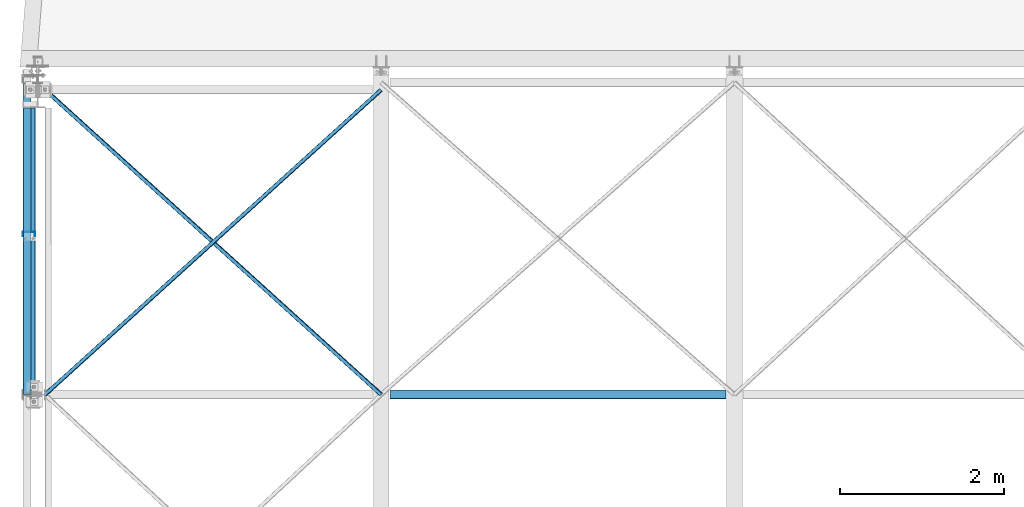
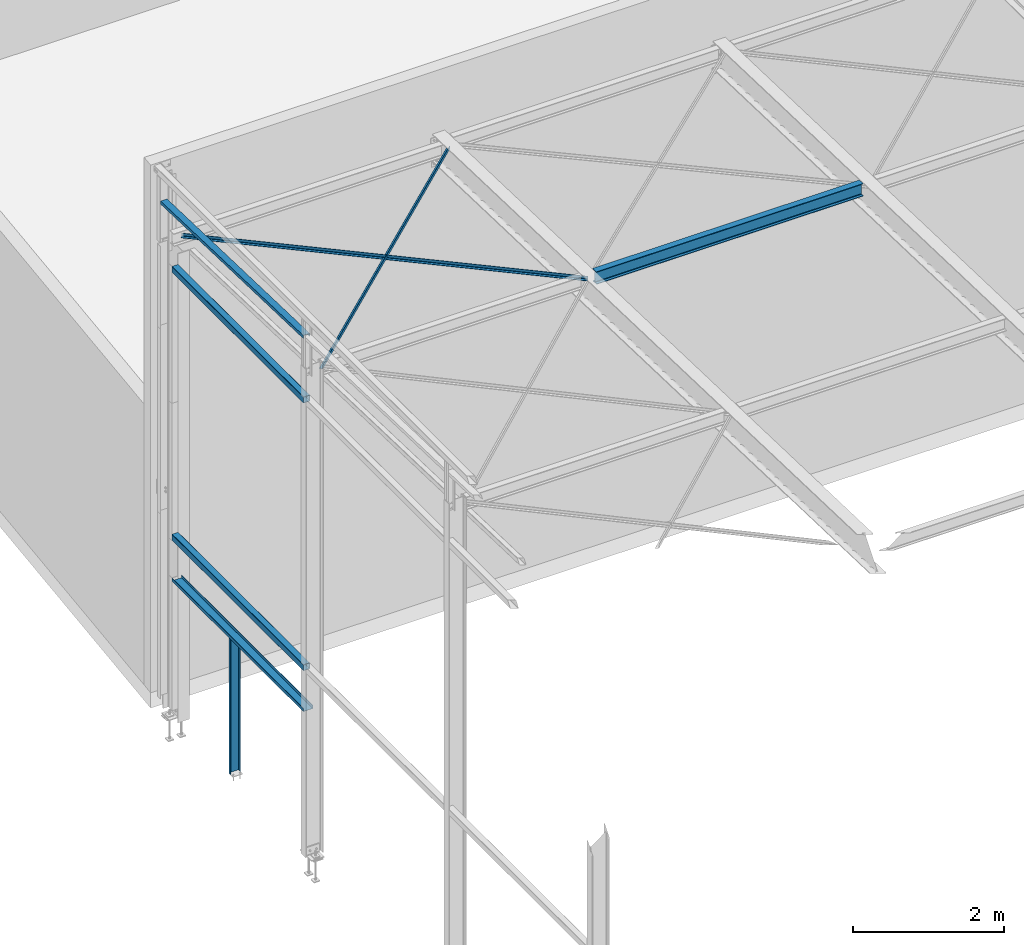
# One storey, part 26 of 123: 8 beams, 8 elements without a shape of their own.
"""IFC2X3 building model written with IfcOpenShell, lengths in millimetres."""

from ifc_helpers import new_model, si_unit, frame, origin_with_axes, origin_2d_with_axis, place, context, subcontext, project, spatial, hollow_rectangle, i_section, l_section, u_section, extrude, material, type_object, element, aggregate, save


model = new_model("IFC2X3")

# Units and contexts
model_context = context("Model", 3, precision=1e-05, world=origin_with_axes())
body_context = subcontext(model_context, "Body", "Model", "MODEL_VIEW")
ifc_project = project(units=[si_unit("LENGTHUNIT", "METRE", prefix="MILLI"), si_unit("AREAUNIT", "SQUARE_METRE"), si_unit("VOLUMEUNIT", "CUBIC_METRE"), si_unit("MASSUNIT", "GRAM", prefix="KILO"), si_unit("TIMEUNIT", "SECOND"), si_unit("PLANEANGLEUNIT", "RADIAN"), si_unit("SOLIDANGLEUNIT", "STERADIAN"), si_unit("THERMODYNAMICTEMPERATUREUNIT", "DEGREE_CELSIUS"), si_unit("LUMINOUSINTENSITYUNIT", "LUMEN")], contexts=[model_context])

# Site, building, storey
site_placement = place(None, origin_with_axes())
site = spatial("IfcSite", under=ifc_project, at=site_placement, Name="Undefined", CompositionType="ELEMENT")
building_placement = place(site_placement, origin_with_axes())
building = spatial("IfcBuilding", under=site, at=building_placement, Name="Undefined", CompositionType="ELEMENT")
storey_placement = place(building_placement, origin_with_axes())
storey = spatial("IfcBuildingStorey", under=building, at=storey_placement, Name="Undefined", CompositionType="ELEMENT", Elevation=0.0)

# Assembly, beam
assembly_1_placement = place(storey_placement, origin_with_axes())
assembly_1 = element("IfcElementAssembly", 1, at=assembly_1_placement, inside=storey, Name="Steel Assembly", AssemblyPlace="NOTDEFINED", PredefinedType="RIGID_FRAME")
ifc_material_1 = material(Name="STEEL/S235-E24")
beam_type_1 = type_object("IfcBeamType", Name="UPF-100*50*4", PredefinedType="NOTDEFINED")
beam_1_placement = place(assembly_1_placement, frame((-129.999999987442, 11400.0, 8171.98873515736), z_axis=(1.0, 0.0, 0.0), x_axis=(0.0, 0.999505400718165, -0.0314476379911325)))
beam_1 = element("IfcBeam", 2, at=beam_1_placement, type_object=beam_type_1, material=ifc_material_1, Name="LISSE CONTREBARDAGE", ObjectType="UPF-100*50*4", context=body_context, shape_type="SweptSolid", body=[
    extrude(u_section(Depth=100.0, FlangeWidth=50.0, WebThickness=4.0, FlangeThickness=4.0, at=origin_2d_with_axis()), frame((3791.86724433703, 0.0, 0.0), z_axis=(-1.0, 0.0, 0.0), x_axis=(0.0, -1.0, 0.0)), (0.0, 0.0, 1.0), 3791.9),
])
aggregate(assembly_1, [beam_1])

assembly_2_placement = place(storey_placement, origin_with_axes())
assembly_2 = element("IfcElementAssembly", 3, at=assembly_2_placement, inside=storey, Name="Steel Assembly", AssemblyPlace="NOTDEFINED", PredefinedType="RIGID_FRAME")
beam_type_2 = type_object("IfcBeamType", Name="TUBE-C-100*100*4", PredefinedType="NOTDEFINED")
beam_2_placement = place(assembly_2_placement, frame((-129.999996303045, 14890.0000011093, 7149.99999263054), z_axis=(0.0, 0.0, -1.0), x_axis=(0.0, -1.0, 0.0)))
beam_2 = element("IfcBeam", 4, at=beam_2_placement, type_object=beam_type_2, material=ifc_material_1, Name="LISSE CHASSIS", ObjectType="TUBE-C-100*100*4", context=body_context, shape_type="SweptSolid", body=[
    extrude(hollow_rectangle(XDim=100.0, YDim=100.0, WallThickness=4.0, InnerFilletRadius=4.0, OuterFilletRadius=8.0, at=origin_2d_with_axis()), frame((3490.00000200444, 0.0, 0.0), z_axis=(-1.0, 0.0, 0.0), x_axis=(0.0, -1.0, 0.0)), (0.0, 0.0, 1.0), 3490.0),
])
aggregate(assembly_2, [beam_2])

assembly_3_placement = place(storey_placement, origin_with_axes())
assembly_3 = element("IfcElementAssembly", 5, at=assembly_3_placement, inside=storey, Name="Steel Assembly", AssemblyPlace="NOTDEFINED", PredefinedType="RIGID_FRAME")
beam_3_placement = place(assembly_3_placement, frame((-129.99999629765, 14889.9999966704, 2810.00000054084), z_axis=(0.0, 0.0, 1.0), x_axis=(0.0, -1.0, 0.0)))
beam_3 = element("IfcBeam", 6, at=beam_3_placement, type_object=beam_type_2, material=ifc_material_1, Name="LISSE CHASSIS", ObjectType="TUBE-C-100*100*4", context=body_context, shape_type="SweptSolid", body=[
    extrude(hollow_rectangle(XDim=100.0, YDim=100.0, WallThickness=4.0, InnerFilletRadius=4.0, OuterFilletRadius=8.0, at=origin_2d_with_axis()), frame((3490.00000200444, 0.0, 0.0), z_axis=(-1.0, 0.0, 0.0), x_axis=(0.0, -1.0, 0.0)), (0.0, 0.0, 1.0), 3490.0),
])
aggregate(assembly_3, [beam_3])

assembly_4_placement = place(storey_placement, origin_with_axes())
assembly_4 = element("IfcElementAssembly", 7, at=assembly_4_placement, inside=storey, Name="Steel Assembly", AssemblyPlace="NOTDEFINED", PredefinedType="RIGID_FRAME")
beam_type_3 = type_object("IfcBeamType", Name="UPF-150*50*5", PredefinedType="NOTDEFINED")
beam_4_placement = place(assembly_4_placement, frame((-105.00001139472, 13355.0066110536, 2100.00000095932), z_axis=(1.0, 0.0, 0.0), x_axis=(0.0, 0.0, -1.0)))
beam_4 = element("IfcBeam", 8, at=beam_4_placement, type_object=beam_type_3, material=ifc_material_1, Name="MONTANT", ObjectType="UPF-150*50*5", context=body_context, shape_type="SweptSolid", body=[
    extrude(u_section(Depth=150.0, FlangeWidth=50.0, WebThickness=5.0, FlangeThickness=5.0, at=origin_2d_with_axis()), frame((2189.9999993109, 0.0, 0.0), z_axis=(-1.0, 0.0, 0.0), x_axis=(0.0, -1.0, 0.0)), (0.0, 0.0, 1.0), 2190.0),
])
aggregate(assembly_4, [beam_4])

assembly_5_placement = place(storey_placement, origin_with_axes())
assembly_5 = element("IfcElementAssembly", 9, at=assembly_5_placement, inside=storey, Name="Steel Assembly", AssemblyPlace="NOTDEFINED", PredefinedType="RIGID_FRAME")
beam_5_placement = place(assembly_5_placement, frame((-105.000022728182, 14890.0000029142, 2124.99999929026), z_axis=(1.0, 0.0, 0.0), x_axis=(0.0, -1.0, 0.0)))
beam_5 = element("IfcBeam", 10, at=beam_5_placement, type_object=beam_type_3, material=ifc_material_1, Name="LINTEAU", ObjectType="UPF-150*50*5", context=body_context, shape_type="SweptSolid", body=[
    extrude(u_section(Depth=150.0, FlangeWidth=50.0, WebThickness=5.0, FlangeThickness=5.0, at=origin_2d_with_axis()), frame((3490.00000200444, 0.0, 0.0), z_axis=(-1.0, 0.0, 0.0), x_axis=(0.0, -1.0, 0.0)), (0.0, 0.0, 1.0), 3490.0),
])
aggregate(assembly_5, [beam_5])

assembly_6_placement = place(storey_placement, origin_with_axes())
assembly_6 = element("IfcElementAssembly", 11, at=assembly_6_placement, inside=storey, Name="Steel Assembly", AssemblyPlace="NOTDEFINED", PredefinedType="RIGID_FRAME")
beam_type_4 = type_object("IfcBeamType", Name="L50*5", PredefinedType="NOTDEFINED")
beam_6_placement = place(assembly_6_placement, frame((4180.00002650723, 11399.9990864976, 7591.6884229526), z_axis=(-0.672042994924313, -0.740146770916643, 0.0232587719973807), x_axis=(-0.740512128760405, 0.671711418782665, -0.0211082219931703)))
beam_6 = element("IfcBeam", 12, at=beam_6_placement, type_object=beam_type_4, material=ifc_material_1, Name="STABILITE CVT", ObjectType="L50*5", context=body_context, shape_type="SweptSolid", body=[
    extrude(l_section(Depth=50.0, Width=50.0, Thickness=5.0, FilletRadius=7.0, EdgeRadius=3.5, at=origin_2d_with_axis()), frame((5523.20464178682, -9.28657167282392e-13, 1.95492314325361e-12), z_axis=(-1.0, 0.0, 0.0), x_axis=(0.0, -1.0, 0.0)), (0.0, 0.0, 1.0), 5523.2),
])
aggregate(assembly_6, [beam_6])

assembly_7_placement = place(storey_placement, origin_with_axes())
assembly_7 = element("IfcElementAssembly", 13, at=assembly_7_placement, inside=storey, Name="Steel Assembly", AssemblyPlace="NOTDEFINED", PredefinedType="RIGID_FRAME")
beam_7_placement = place(assembly_7_placement, frame((89.9999999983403, 11399.9990819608, 7591.68842207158), z_axis=(-0.67204299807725, 0.740146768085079, -0.0232587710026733), x_axis=(0.740512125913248, 0.671711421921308, -0.0211082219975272)))
beam_7 = element("IfcBeam", 14, at=beam_7_placement, type_object=beam_type_4, material=ifc_material_1, Name="STABILITE CVT", ObjectType="L50*5", context=body_context, shape_type="SweptSolid", body=[
    extrude(l_section(Depth=50.0, Width=50.0, Thickness=5.0, FilletRadius=7.0, EdgeRadius=3.5, at=origin_2d_with_axis()), frame((5523.20464178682, -9.28657167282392e-13, 1.95492314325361e-12), z_axis=(-1.0, 0.0, 0.0), x_axis=(0.0, -1.0, 0.0)), (0.0, 0.0, 1.0), 5523.2),
])
aggregate(assembly_7, [beam_7])

assembly_8_placement = place(storey_placement, origin_with_axes())
assembly_8 = element("IfcElementAssembly", 15, at=assembly_8_placement, inside=storey, Name="Steel Assembly", AssemblyPlace="NOTDEFINED", PredefinedType="RIGID_FRAME")
ifc_material_2 = material(Name="STEEL/S275-E28")
beam_type_5 = type_object("IfcBeamType", Name="IPE200", PredefinedType="NOTDEFINED")
beam_8_placement = place(assembly_8_placement, frame((4285.0, 11400.0005139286, 7591.6893913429), z_axis=(0.0, 0.0314107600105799, 0.999506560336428), x_axis=(1.0, 0.0, 0.0)))
beam_8 = element("IfcBeam", 16, at=beam_8_placement, type_object=beam_type_5, material=ifc_material_2, Name="PANNE", ObjectType="IPE200", context=body_context, shape_type="SweptSolid", body=[
    extrude(i_section(OverallWidth=100.0, OverallDepth=200.0, WebThickness=5.599999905, FlangeThickness=8.5, FilletRadius=12.0, at=origin_2d_with_axis()), frame((4090.0, 0.0, 0.0), z_axis=(-1.0, 0.0, 0.0), x_axis=(0.0, -1.0, 0.0)), (0.0, 0.0, 1.0), 4090.0),
])
aggregate(assembly_8, [beam_8])

save(model, "model.ifc")
